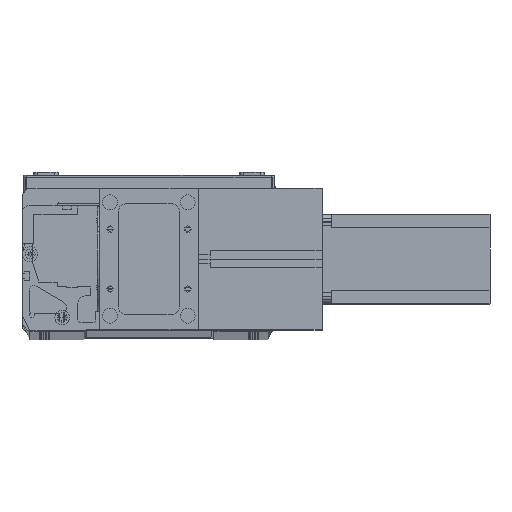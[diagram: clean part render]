
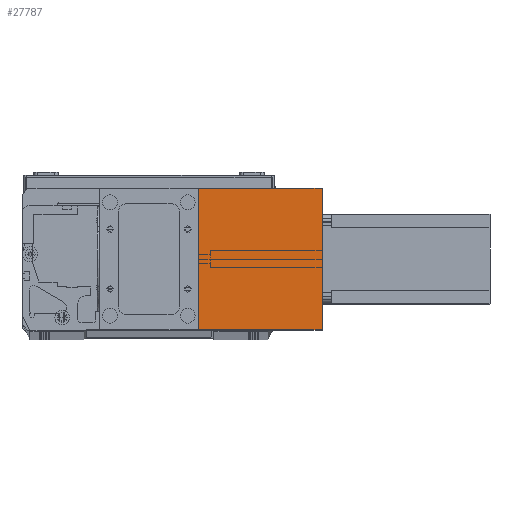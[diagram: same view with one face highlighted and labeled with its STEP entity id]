
A CAD part, top view. The second image highlights one B-rep face of the part: STEP entity #27787.
In plain terms, the highlighted planar face has unit normal (0, 0, 1) as drawn and (1, 0, 0) by its records, which use the part's own axes.
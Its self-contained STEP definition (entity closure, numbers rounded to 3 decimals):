
#1925 = EDGE_CURVE ( 'NONE', #15404, #11452, #16560, .T. ) ;
#2098 = VERTEX_POINT ( 'NONE', #8460 ) ;
#3153 = LINE ( 'NONE', #17632, #21113 ) ;
#3333 = CARTESIAN_POINT ( 'NONE',  ( 82., 0., 0. ) ) ;
#3418 = ORIENTED_EDGE ( 'NONE', *, *, #10198, .T. ) ;
#3918 = DIRECTION ( 'NONE',  ( 0., 1., 0. ) ) ;
#7310 = FACE_OUTER_BOUND ( 'NONE', #9300, .T. ) ;
#7363 = ORIENTED_EDGE ( 'NONE', *, *, #28586, .F. ) ;
#7447 = VECTOR ( 'NONE', #21290, 1000. ) ;
#8460 = CARTESIAN_POINT ( 'NONE',  ( 82., 95., 83. ) ) ;
#8896 = ORIENTED_EDGE ( 'NONE', *, *, #1925, .T. ) ;
#9300 = EDGE_LOOP ( 'NONE', ( #8896, #7363, #13443, #3418 ) ) ;
#10198 = EDGE_CURVE ( 'NONE', #30635, #15404, #3153, .T. ) ;
#10690 = CARTESIAN_POINT ( 'NONE',  ( 82., 0., 83. ) ) ;
#11452 = VERTEX_POINT ( 'NONE', #16466 ) ;
#13443 = ORIENTED_EDGE ( 'NONE', *, *, #26793, .F. ) ;
#15404 = VERTEX_POINT ( 'NONE', #3333 ) ;
#15635 = DIRECTION ( 'NONE',  ( 0., 0., 1. ) ) ;
#15776 = VECTOR ( 'NONE', #3918, 1000. ) ;
#16466 = CARTESIAN_POINT ( 'NONE',  ( 82., 95., 0. ) ) ;
#16560 = LINE ( 'NONE', #17360, #15776 ) ;
#17360 = CARTESIAN_POINT ( 'NONE',  ( 82., 0., 0. ) ) ;
#17632 = CARTESIAN_POINT ( 'NONE',  ( 82., 0., 83. ) ) ;
#17645 = VECTOR ( 'NONE', #20984, 1000. ) ;
#17733 = DIRECTION ( 'NONE',  ( 0., 0., -1. ) ) ;
#18897 = CARTESIAN_POINT ( 'NONE',  ( 82., 0., 83. ) ) ;
#20898 = CARTESIAN_POINT ( 'NONE',  ( 82., 95., 83. ) ) ;
#20984 = DIRECTION ( 'NONE',  ( 0., 0., -1. ) ) ;
#21113 = VECTOR ( 'NONE', #17733, 1000. ) ;
#21290 = DIRECTION ( 'NONE',  ( 0., 1., 0. ) ) ;
#24606 = CARTESIAN_POINT ( 'NONE',  ( 82., 0., 83. ) ) ;
#25164 = PLANE ( 'NONE',  #30424 ) ;
#26706 = LINE ( 'NONE', #18897, #7447 ) ;
#26793 = EDGE_CURVE ( 'NONE', #30635, #2098, #26706, .T. ) ;
#27787 = ADVANCED_FACE ( 'NONE', ( #7310 ), #25164, .F. ) ;
#28586 = EDGE_CURVE ( 'NONE', #2098, #11452, #30282, .T. ) ;
#29965 = DIRECTION ( 'NONE',  ( -1., 0., 0. ) ) ;
#30282 = LINE ( 'NONE', #20898, #17645 ) ;
#30424 = AXIS2_PLACEMENT_3D ( 'NONE', #10690, #29965, #15635 ) ;
#30635 = VERTEX_POINT ( 'NONE', #24606 ) ;
